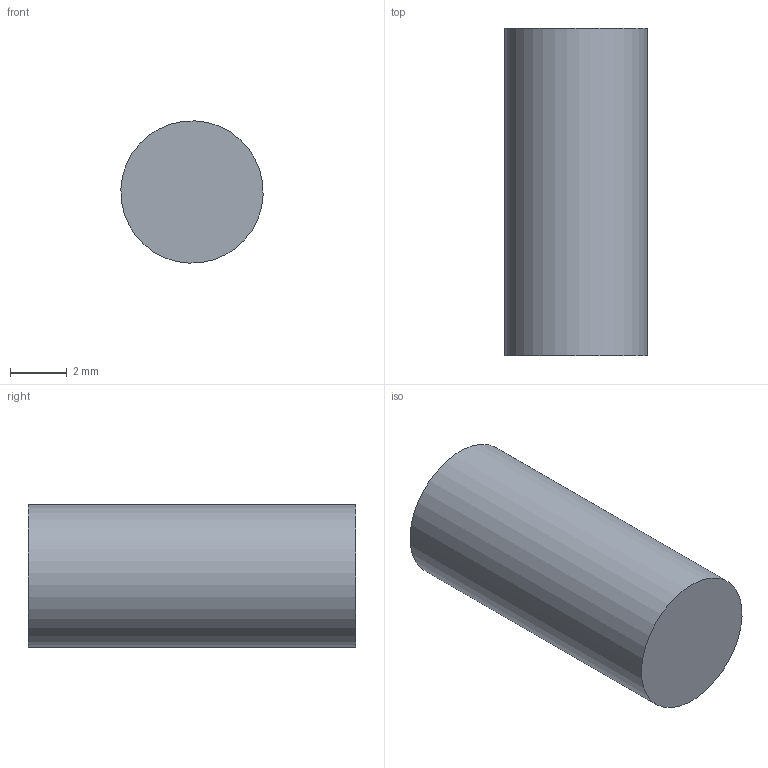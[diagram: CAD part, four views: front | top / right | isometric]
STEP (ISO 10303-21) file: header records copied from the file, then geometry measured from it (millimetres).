
FILE_DESCRIPTION(('Open CASCADE Model'),'2;1');
FILE_NAME('Open CASCADE Shape Model','2026-10-15T20:36:14',('Author'),( 'Open CASCADE'),'Open CASCADE STEP processor 7.9','Open CASCADE 7.9' ,'Unknown');
FILE_SCHEMA(('AUTOMOTIVE_DESIGN { 1 0 10303 214 1 1 1 1 }'));
Length unit declared in the file: millimetre
Products named in the file (1): Open CASCADE STEP translator 7.9 2
Bounding box: 5 x 11.5 x 5 mm (x, y, z)
Volume: 225.8 mm3; surface area: 219.9 mm2
Topology: 1 solids, 1 shells, 3 faces, 3 edges, 2 vertices
Faces by surface type: plane 2, cylinder 1
Full cylindrical faces by diameter (mm): 5 x1
Entity records: 108 total; most frequent: DIRECTION 19, CARTESIAN_POINT 15, AXIS2_PLACEMENT_3D 6, ORIENTED_EDGE 6, PCURVE 6, DEFINITIONAL_REPRESENTATION 6, LINE 5, VECTOR 5
